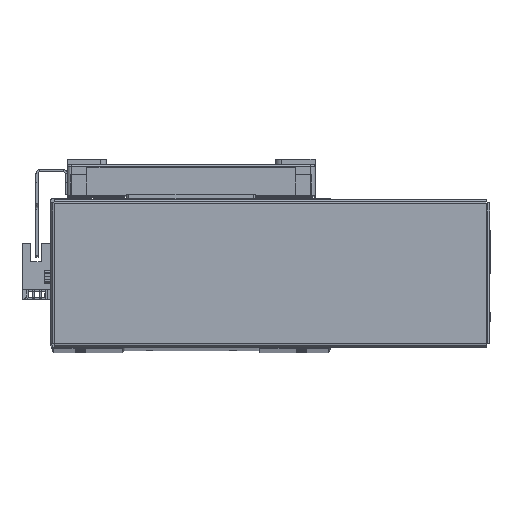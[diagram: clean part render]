
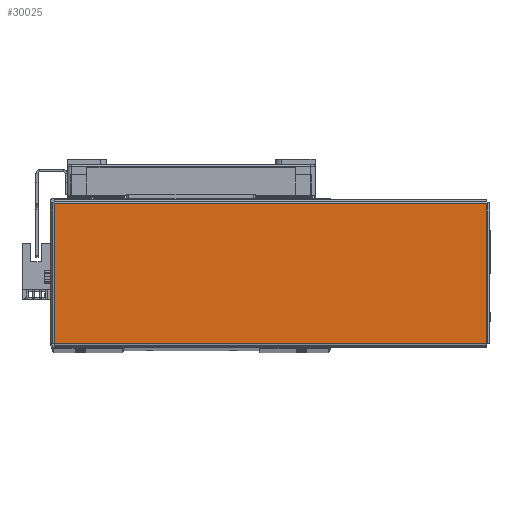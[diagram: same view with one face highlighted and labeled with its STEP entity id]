
A CAD part, top view. The second image highlights one B-rep face of the part: STEP entity #30025.
In plain terms, the highlighted planar face has unit normal (0, 0, 1) as drawn and (0, -1, 0) by its records, which use the part's own axes.
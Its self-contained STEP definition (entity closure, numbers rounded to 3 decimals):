
#8903 = EDGE_LOOP ( 'NONE', ( #54673, #54618, #54654, #54669 ) ) ;
#11730 = CARTESIAN_POINT ( 'NONE',  ( 103.763, -1., -33.763 ) ) ;
#11742 = CARTESIAN_POINT ( 'NONE',  ( 103.763, -1., 33.763 ) ) ;
#11760 = CARTESIAN_POINT ( 'NONE',  ( -103.763, -1., -33.763 ) ) ;
#11764 = CARTESIAN_POINT ( 'NONE',  ( -103.763, -1., 33.763 ) ) ;
#14644 = VECTOR ( 'NONE', #20832, 1000. ) ;
#14684 = LINE ( 'NONE', #20879, #14644 ) ;
#14694 = LINE ( 'NONE', #21142, #14734 ) ;
#14734 = VECTOR ( 'NONE', #21162, 1000. ) ;
#14758 = LINE ( 'NONE', #21053, #14790 ) ;
#14790 = VECTOR ( 'NONE', #20988, 1000. ) ;
#14928 = VECTOR ( 'NONE', #21498, 1000. ) ;
#14941 = LINE ( 'NONE', #21495, #14928 ) ;
#20832 = DIRECTION ( 'NONE',  ( 0., 0., -1. ) ) ;
#20879 = CARTESIAN_POINT ( 'NONE',  ( -103.763, -1., 33.793 ) ) ;
#20988 = DIRECTION ( 'NONE',  ( 1., 0., 0. ) ) ;
#21053 = CARTESIAN_POINT ( 'NONE',  ( -103.793, -1., -33.763 ) ) ;
#21142 = CARTESIAN_POINT ( 'NONE',  ( 103.763, -1., -33.793 ) ) ;
#21162 = DIRECTION ( 'NONE',  ( 0., 0., 1. ) ) ;
#21495 = CARTESIAN_POINT ( 'NONE',  ( 103.793, -1., 33.763 ) ) ;
#21498 = DIRECTION ( 'NONE',  ( -1., 0., 0. ) ) ;
#30025 = ADVANCED_FACE ( 'NONE', ( #62405 ), #64914, .F. ) ;
#50002 = VERTEX_POINT ( 'NONE', #11730 ) ;
#50039 = VERTEX_POINT ( 'NONE', #11760 ) ;
#50042 = VERTEX_POINT ( 'NONE', #11742 ) ;
#50069 = VERTEX_POINT ( 'NONE', #11764 ) ;
#54618 = ORIENTED_EDGE ( 'NONE', *, *, #55534, .T. ) ;
#54654 = ORIENTED_EDGE ( 'NONE', *, *, #55547, .T. ) ;
#54669 = ORIENTED_EDGE ( 'NONE', *, *, #55565, .T. ) ;
#54673 = ORIENTED_EDGE ( 'NONE', *, *, #55617, .T. ) ;
#55534 = EDGE_CURVE ( 'NONE', #50069, #50039, #14684, .T. ) ;
#55547 = EDGE_CURVE ( 'NONE', #50039, #50002, #14758, .T. ) ;
#55565 = EDGE_CURVE ( 'NONE', #50002, #50042, #14694, .T. ) ;
#55617 = EDGE_CURVE ( 'NONE', #50042, #50069, #14941, .T. ) ;
#59779 = AXIS2_PLACEMENT_3D ( 'NONE', #64946, #64901, #64931 ) ;
#62405 = FACE_OUTER_BOUND ( 'NONE', #8903, .T. ) ;
#64901 = DIRECTION ( 'NONE',  ( 0., 1., 0. ) ) ;
#64914 = PLANE ( 'NONE',  #59779 ) ;
#64931 = DIRECTION ( 'NONE',  ( 0., 0., 1. ) ) ;
#64946 = CARTESIAN_POINT ( 'NONE',  ( 0., -1., 0. ) ) ;
